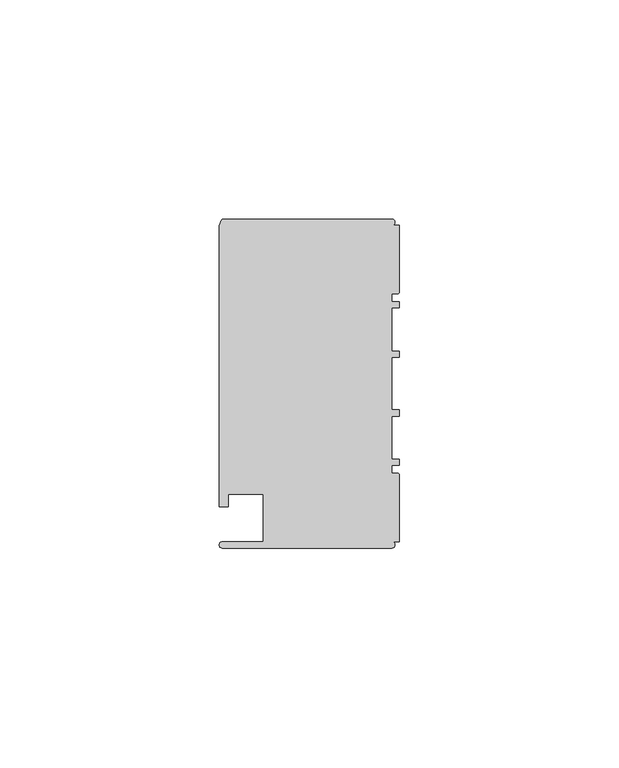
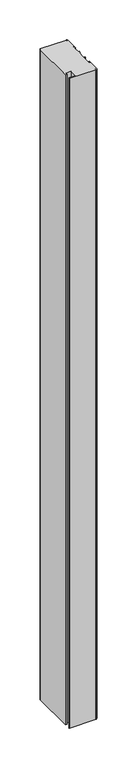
"""IFC4 building model written with IfcOpenShell, lengths in millimetres: member geometry, Прямоугольный импост : 1-AMG-1-Профиль 40Х75 Низ Л."""

from ifc_helpers import new_model, si_unit, point, frame, frame_2d, origin, place, context, project, spatial, polyline, circle_curve, trimmed, segment, composite_curve, outline, extrude, source, transform, mapped, element, save


def member_3521b740(model_context):
    return source(origin(), model_context, "Body", "SweptSolid", [
        extrude(outline(composite_curve([segment(polyline([(-1.7, -37.5), (-40.4, -37.5)]), True, "CONTINUOUS"), segment(trimmed(circle_curve(frame_2d((-40.4, -36.8)), 0.7), [point((-40.4, -37.5))], [point((-40.4, -36.1))], False, "CARTESIAN"), True, "CONTINUOUS"), segment(polyline([(-40.4, -36.1), (-31.0, -36.1), (-31.0, -25.25), (-39.0, -25.25), (-39.0, -28.1), (-41.1, -28.1), (-41.1, 35.6)]), True, "CONTINUOUS"), segment(trimmed(circle_curve(frame_2d((-38.1714286, 35.6)), 2.9285714), [point((-41.1, 35.6))], [point((-40.4, 37.5))], False, "CARTESIAN"), True, "CONTINUOUS"), segment(polyline([(-40.4, 37.5), (-1.7, 37.5)]), True, "CONTINUOUS"), segment(trimmed(circle_curve(frame_2d((-1.7, 36.8)), 0.7), [point((-1.7, 37.5))], [point((-1.7, 36.1))], False, "CARTESIAN"), True, "CONTINUOUS"), segment(polyline([(-1.7, 36.1), (0.0, 36.1), (0.0, 20.95)]), True, "CONTINUOUS"), segment(trimmed(circle_curve(frame_2d((-0.5, 20.95)), 0.5), [point((0.0, 20.95))], [point((-0.5, 20.45))], False, "CARTESIAN"), True, "CONTINUOUS"), segment(polyline([(-0.5, 20.45), (-1.8, 20.45), (-1.8, 18.65), (0.0, 18.65), (0.0, 17.25), (-1.8, 17.25), (-1.8, 7.4), (0.0, 7.4), (0.0, 6.0), (-1.8, 6.0), (-1.8, -6.0), (0.0, -6.0), (0.0, -7.4), (-1.8, -7.4), (-1.8, -17.25), (0.0, -17.25), (0.0, -18.65), (-1.8, -18.65), (-1.8, -20.45), (-0.5, -20.45)]), True, "CONTINUOUS"), segment(trimmed(circle_curve(frame_2d((-0.5, -20.95)), 0.5), [point((-0.5, -20.45))], [point((0.0, -20.95))], False, "CARTESIAN"), True, "CONTINUOUS"), segment(polyline([(0.0, -20.95), (0.0, -36.1), (-1.7, -36.1)]), True, "CONTINUOUS"), segment(trimmed(circle_curve(frame_2d((-1.7, -36.8)), 0.7), [point((-1.7, -36.1))], [point((-1.7, -37.5))], False, "CARTESIAN"), True, "CONTINUOUS")], self_intersect=False)), frame((0.0, 0.0, -1000.8479162), z_axis=(0.0, 0.0, 1.0), x_axis=(1.0, 0.0, 0.0)), (0.0, 0.0, 1.0), 1000.8479162),
    ])


if __name__ == "__main__":
    model = new_model("IFC4")
    model_context = context("Model", 3, world=origin())
    ifc_project = project(units=[si_unit("LENGTHUNIT", "METRE", prefix="MILLI")], contexts=[model_context])
    site = spatial("IfcSite", under=ifc_project)
    building = spatial("IfcBuilding", under=site)
    placement = place(None, origin())
    member_shape = member_3521b740(model_context)
    element("IfcMember", 1, ObjectType="Прямоугольный импост : 1-AMG-1-Профиль 40Х75 Низ Л", at=placement, inside=building, context=model_context, shape_type="MappedRepresentation", body=[
        mapped(member_shape, transform((0.0, 0.0, 0.0), x_axis=(1.0, 0.0, 0.0), y_axis=(0.0, 1.0, 0.0), z_axis=(0.0, 0.0, 1.0))),
    ])
    save(model, "model.ifc")
